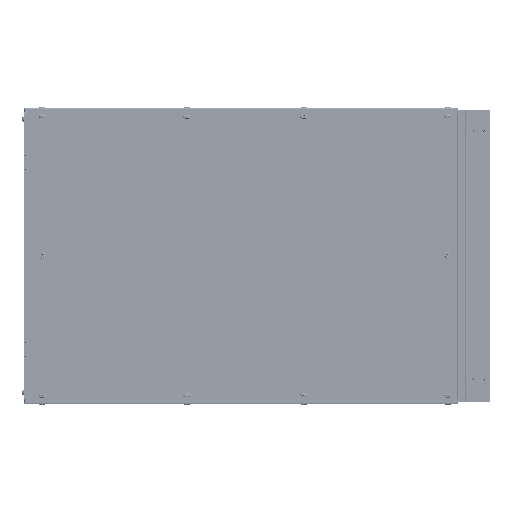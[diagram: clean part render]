
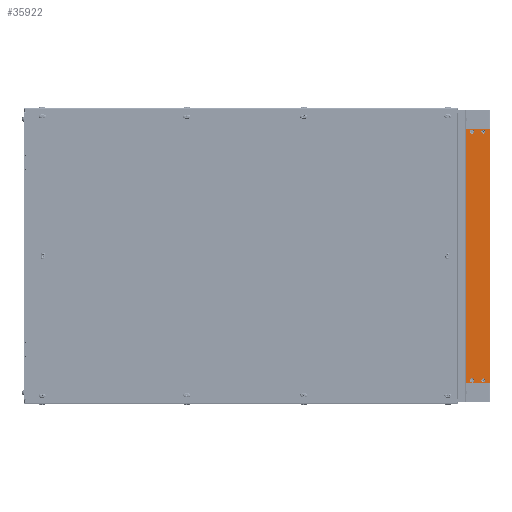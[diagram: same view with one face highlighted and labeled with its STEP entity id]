
A CAD part, left-side view. The second image highlights one B-rep face of the part: STEP entity #35922.
In plain terms, the highlighted planar face has unit normal (-1, 0, 0) as drawn and (0, -1, 0) by its records, which use the part's own axes.
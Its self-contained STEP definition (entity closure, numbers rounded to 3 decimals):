
#1788 = DIRECTION ( 'NONE',  ( 1., 0., 0. ) ) ;
#1842 = CARTESIAN_POINT ( 'NONE',  ( 11.025, 0., -62.507 ) ) ;
#11348 = ORIENTED_EDGE ( 'NONE', *, *, #382474, .F. ) ;
#15094 = ORIENTED_EDGE ( 'NONE', *, *, #529249, .F. ) ;
#17328 = DIRECTION ( 'NONE',  ( 0., 0., -1. ) ) ;
#35705 = CARTESIAN_POINT ( 'NONE',  ( 11.025, 0., -71.25 ) ) ;
#35922 = ADVANCED_FACE ( 'NONE', ( #637068, #379199, #632976, #745423, #63392 ), #316879, .T. ) ;
#47337 = CARTESIAN_POINT ( 'NONE',  ( 1041.04, 0., -96.5 ) ) ;
#48266 = AXIS2_PLACEMENT_3D ( 'NONE', #621932, #559525, #813216 ) ;
#51098 = CARTESIAN_POINT ( 'NONE',  ( 0., 0., -96.5 ) ) ;
#52922 = EDGE_CURVE ( 'NONE', #123306, #323722, #82546, .T. ) ;
#53422 = CIRCLE ( 'NONE', #93162, 8.246 ) ;
#54373 = VECTOR ( 'NONE', #121447, 1000. ) ;
#57455 = VERTEX_POINT ( 'NONE', #87571 ) ;
#57888 = ORIENTED_EDGE ( 'NONE', *, *, #64248, .F. ) ;
#63392 = FACE_BOUND ( 'NONE', #646249, .T. ) ;
#64248 = EDGE_CURVE ( 'NONE', #288579, #539491, #215927, .T. ) ;
#66070 = ORIENTED_EDGE ( 'NONE', *, *, #105744, .F. ) ;
#67470 = DIRECTION ( 'NONE',  ( 0., 0., -1. ) ) ;
#72828 = ORIENTED_EDGE ( 'NONE', *, *, #706523, .F. ) ;
#76403 = VERTEX_POINT ( 'NONE', #1842 ) ;
#77580 = DIRECTION ( 'NONE',  ( 0., 0., 1. ) ) ;
#82546 = LINE ( 'NONE', #273670, #381614 ) ;
#87571 = CARTESIAN_POINT ( 'NONE',  ( 1030.015, 0., -17.004 ) ) ;
#87824 = DIRECTION ( 'NONE',  ( 0., -1., 0. ) ) ;
#93162 = AXIS2_PLACEMENT_3D ( 'NONE', #484019, #617008, #691656 ) ;
#105744 = EDGE_CURVE ( 'NONE', #685278, #714928, #335064, .T. ) ;
#113299 = LINE ( 'NONE', #258437, #54373 ) ;
#121447 = DIRECTION ( 'NONE',  ( 0., 0., -1. ) ) ;
#123306 = VERTEX_POINT ( 'NONE', #47337 ) ;
#126575 = VECTOR ( 'NONE', #1788, 1000. ) ;
#144492 = ORIENTED_EDGE ( 'NONE', *, *, #375504, .F. ) ;
#160345 = CIRCLE ( 'NONE', #651854, 8.743 ) ;
#160712 = CARTESIAN_POINT ( 'NONE',  ( 11.025, 0., -25.25 ) ) ;
#163850 = EDGE_CURVE ( 'NONE', #727989, #57455, #53422, .T. ) ;
#171378 = CARTESIAN_POINT ( 'NONE',  ( 0., 0., -96.5 ) ) ;
#174716 = AXIS2_PLACEMENT_3D ( 'NONE', #35705, #538770, #289157 ) ;
#177577 = DIRECTION ( 'NONE',  ( 0., -1., 0. ) ) ;
#180024 = VERTEX_POINT ( 'NONE', #630271 ) ;
#181539 = ORIENTED_EDGE ( 'NONE', *, *, #642982, .F. ) ;
#215927 = CIRCLE ( 'NONE', #548329, 8.743 ) ;
#232785 = CARTESIAN_POINT ( 'NONE',  ( 11.025, 0., -17.004 ) ) ;
#237038 = AXIS2_PLACEMENT_3D ( 'NONE', #326218, #322106, #575823 ) ;
#248277 = AXIS2_PLACEMENT_3D ( 'NONE', #697160, #177577, #443420 ) ;
#248649 = EDGE_LOOP ( 'NONE', ( #672562, #368137, #15094, #11348 ) ) ;
#252877 = EDGE_LOOP ( 'NONE', ( #72828, #66070 ) ) ;
#258437 = CARTESIAN_POINT ( 'NONE',  ( 1041.04, 0., 0. ) ) ;
#259325 = CARTESIAN_POINT ( 'NONE',  ( 0., 0., 0. ) ) ;
#263408 = LINE ( 'NONE', #259325, #126575 ) ;
#269912 = CARTESIAN_POINT ( 'NONE',  ( 1030.015, 0., -62.507 ) ) ;
#273670 = CARTESIAN_POINT ( 'NONE',  ( 0., 0., -96.5 ) ) ;
#288579 = VERTEX_POINT ( 'NONE', #390521 ) ;
#289157 = DIRECTION ( 'NONE',  ( 0., 0., -1. ) ) ;
#304558 = DIRECTION ( 'NONE',  ( 0., -1., 0. ) ) ;
#316879 = PLANE ( 'NONE',  #447980 ) ;
#322106 = DIRECTION ( 'NONE',  ( 0., -1., 0. ) ) ;
#323722 = VERTEX_POINT ( 'NONE', #171378 ) ;
#326218 = CARTESIAN_POINT ( 'NONE',  ( 1030.015, 0., -71.25 ) ) ;
#327811 = DIRECTION ( 'NONE',  ( 0., 0., 1. ) ) ;
#334315 = EDGE_CURVE ( 'NONE', #323722, #799487, #460810, .T. ) ;
#335064 = CIRCLE ( 'NONE', #799958, 8.246 ) ;
#356236 = CIRCLE ( 'NONE', #237038, 8.743 ) ;
#368137 = ORIENTED_EDGE ( 'NONE', *, *, #52922, .F. ) ;
#375504 = EDGE_CURVE ( 'NONE', #557206, #76403, #599658, .T. ) ;
#379199 = FACE_BOUND ( 'NONE', #553657, .T. ) ;
#381614 = VECTOR ( 'NONE', #527371, 1000. ) ;
#382474 = EDGE_CURVE ( 'NONE', #799487, #180024, #263408, .T. ) ;
#388102 = EDGE_CURVE ( 'NONE', #76403, #557206, #160345, .T. ) ;
#390521 = CARTESIAN_POINT ( 'NONE',  ( 1030.015, 0., -79.993 ) ) ;
#419351 = VECTOR ( 'NONE', #327811, 1000. ) ;
#424481 = ORIENTED_EDGE ( 'NONE', *, *, #732549, .F. ) ;
#439185 = ORIENTED_EDGE ( 'NONE', *, *, #163850, .F. ) ;
#443420 = DIRECTION ( 'NONE',  ( 0., 0., -1. ) ) ;
#447980 = AXIS2_PLACEMENT_3D ( 'NONE', #51098, #304558, #67470 ) ;
#452608 = CARTESIAN_POINT ( 'NONE',  ( 0., 0., 0. ) ) ;
#460810 = LINE ( 'NONE', #452608, #419351 ) ;
#463888 = CARTESIAN_POINT ( 'NONE',  ( 11.025, 0., -79.993 ) ) ;
#483665 = ORIENTED_EDGE ( 'NONE', *, *, #388102, .F. ) ;
#484019 = CARTESIAN_POINT ( 'NONE',  ( 1030.015, 0., -25.25 ) ) ;
#526487 = CARTESIAN_POINT ( 'NONE',  ( 1030.015, 0., -71.25 ) ) ;
#527371 = DIRECTION ( 'NONE',  ( -1., 0., 0. ) ) ;
#527620 = CARTESIAN_POINT ( 'NONE',  ( 0., 0., 0. ) ) ;
#529249 = EDGE_CURVE ( 'NONE', #180024, #123306, #113299, .T. ) ;
#538770 = DIRECTION ( 'NONE',  ( 0., -1., 0. ) ) ;
#539491 = VERTEX_POINT ( 'NONE', #269912 ) ;
#540374 = CIRCLE ( 'NONE', #248277, 8.246 ) ;
#548329 = AXIS2_PLACEMENT_3D ( 'NONE', #526487, #721852, #77580 ) ;
#551459 = DIRECTION ( 'NONE',  ( 0., 0., -1. ) ) ;
#553657 = EDGE_LOOP ( 'NONE', ( #424481, #439185 ) ) ;
#557206 = VERTEX_POINT ( 'NONE', #463888 ) ;
#559525 = DIRECTION ( 'NONE',  ( 0., -1., 0. ) ) ;
#575823 = DIRECTION ( 'NONE',  ( 0., 0., 1. ) ) ;
#597649 = CARTESIAN_POINT ( 'NONE',  ( 11.025, 0., -33.496 ) ) ;
#599658 = CIRCLE ( 'NONE', #174716, 8.743 ) ;
#617008 = DIRECTION ( 'NONE',  ( 0., -1., 0. ) ) ;
#621932 = CARTESIAN_POINT ( 'NONE',  ( 1030.015, 0., -25.25 ) ) ;
#630271 = CARTESIAN_POINT ( 'NONE',  ( 1041.04, 0., 0. ) ) ;
#632976 = FACE_OUTER_BOUND ( 'NONE', #248649, .T. ) ;
#637068 = FACE_BOUND ( 'NONE', #654258, .T. ) ;
#642982 = EDGE_CURVE ( 'NONE', #539491, #288579, #356236, .T. ) ;
#646249 = EDGE_LOOP ( 'NONE', ( #144492, #483665 ) ) ;
#651854 = AXIS2_PLACEMENT_3D ( 'NONE', #715732, #87824, #17328 ) ;
#654258 = EDGE_LOOP ( 'NONE', ( #181539, #57888 ) ) ;
#672562 = ORIENTED_EDGE ( 'NONE', *, *, #334315, .F. ) ;
#685278 = VERTEX_POINT ( 'NONE', #232785 ) ;
#691656 = DIRECTION ( 'NONE',  ( 0., 0., 1. ) ) ;
#697160 = CARTESIAN_POINT ( 'NONE',  ( 11.025, 0., -25.25 ) ) ;
#706523 = EDGE_CURVE ( 'NONE', #714928, #685278, #540374, .T. ) ;
#714928 = VERTEX_POINT ( 'NONE', #597649 ) ;
#715732 = CARTESIAN_POINT ( 'NONE',  ( 11.025, 0., -71.25 ) ) ;
#721852 = DIRECTION ( 'NONE',  ( 0., -1., 0. ) ) ;
#726890 = CARTESIAN_POINT ( 'NONE',  ( 1030.015, 0., -33.496 ) ) ;
#727989 = VERTEX_POINT ( 'NONE', #726890 ) ;
#732549 = EDGE_CURVE ( 'NONE', #57455, #727989, #778336, .T. ) ;
#734500 = DIRECTION ( 'NONE',  ( 0., -1., 0. ) ) ;
#745423 = FACE_BOUND ( 'NONE', #252877, .T. ) ;
#778336 = CIRCLE ( 'NONE', #48266, 8.246 ) ;
#799487 = VERTEX_POINT ( 'NONE', #527620 ) ;
#799958 = AXIS2_PLACEMENT_3D ( 'NONE', #160712, #734500, #551459 ) ;
#813216 = DIRECTION ( 'NONE',  ( 0., 0., 1. ) ) ;
